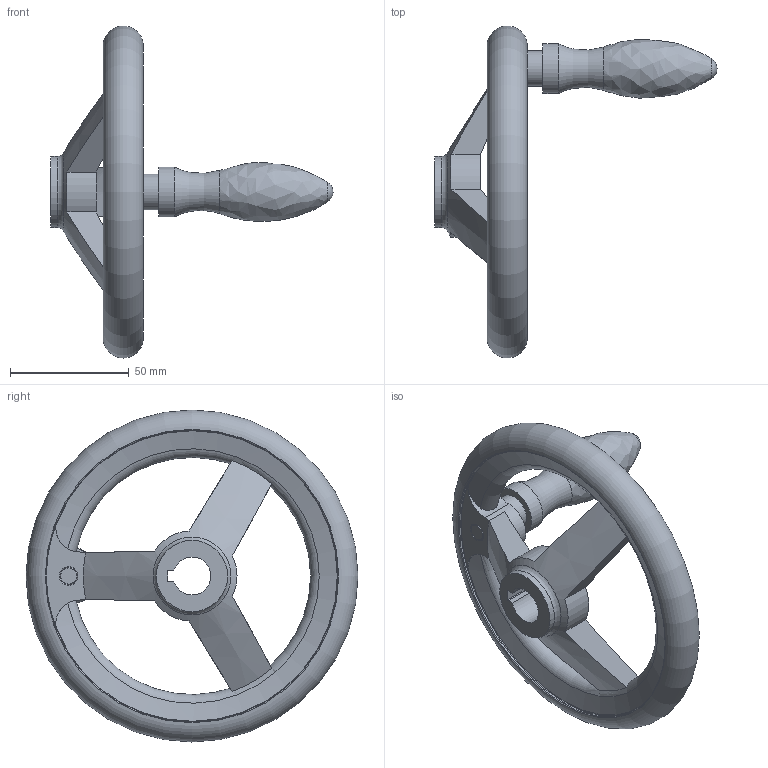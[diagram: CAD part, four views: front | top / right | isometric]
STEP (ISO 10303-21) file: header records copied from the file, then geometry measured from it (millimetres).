
FILE_DESCRIPTION( ( 'STEP AP203' ), '1' );
FILE_NAME( 'C:/Temp/Ganter_Step_05_03_2020/data/1_3/din_950/din_950_k/din_950_k_d/Handwheel DIN 950-GG-140-K16-D.stp', '2020-03-05T10:30:52', ( 'License CC BY-ND 4.0' ), ( 'CADENAS' ), ' ', 'PARTsolutions', ' ' );
FILE_SCHEMA( ( 'CONFIG_CONTROL_DESIGN' ) );
Length unit declared in the file: millimetre
Products named in the file (1): _Handwheel DIN 950-GG-140-K16-D
Bounding box: 119 x 140 x 140 mm (x, y, z)
Volume: 150723.7 mm3; surface area: 38004.1 mm2
Topology: 1 solids, 1 shells, 49 faces, 134 edges, 85 vertices
Faces by surface type: cylinder 15, plane 15, torus 11, cone 6, bspline 1, sphere 1
Full cylindrical faces by diameter (mm): 15 x1, 21 x1, 30 x2, 123 x2
Entity records: 1813 total; most frequent: CARTESIAN_POINT 647, DIRECTION 228, ORIENTED_EDGE 216, EDGE_CURVE 108, AXIS2_PLACEMENT_3D 102, VERTEX_POINT 81, EDGE_LOOP 75, FACE_OUTER_BOUND 64
